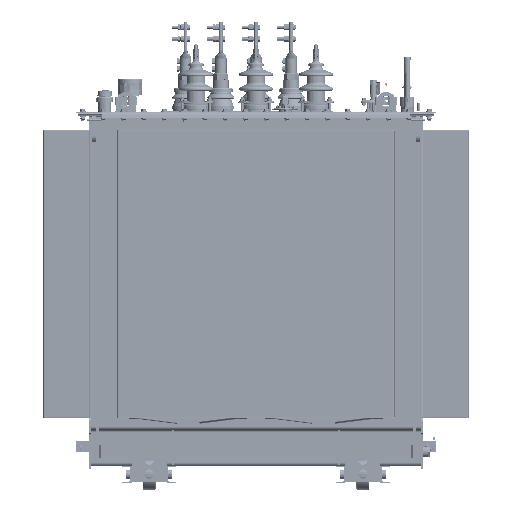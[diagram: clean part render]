
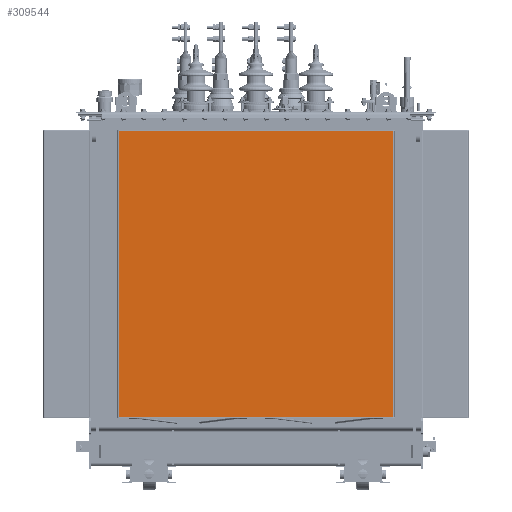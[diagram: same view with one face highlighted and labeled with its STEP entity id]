
A CAD part, front view. The second image highlights one B-rep face of the part: STEP entity #309544.
In plain terms, the highlighted planar face has unit normal (0, -1, 0).
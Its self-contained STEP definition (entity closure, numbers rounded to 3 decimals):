
#23170=PLANE('',#337541);
#40666=FACE_OUTER_BOUND('',#60003,.T.);
#60003=EDGE_LOOP('',(#271337,#271338,#271339,#271340));
#81624=LINE('',#635050,#103266);
#81625=LINE('',#635053,#103267);
#81626=LINE('',#635055,#103268);
#81627=LINE('',#635056,#103269);
#103266=VECTOR('',#414766,10.);
#103267=VECTOR('',#414769,10.);
#103268=VECTOR('',#414770,10.);
#103269=VECTOR('',#414771,10.);
#143123=VERTEX_POINT('',#635044);
#143125=VERTEX_POINT('',#635048);
#143126=VERTEX_POINT('',#635052);
#143127=VERTEX_POINT('',#635054);
#185874=EDGE_CURVE('',#143123,#143125,#81624,.T.);
#185875=EDGE_CURVE('',#143123,#143126,#81625,.T.);
#185876=EDGE_CURVE('',#143127,#143125,#81626,.T.);
#185877=EDGE_CURVE('',#143126,#143127,#81627,.T.);
#271337=ORIENTED_EDGE('',*,*,#185875,.F.);
#271338=ORIENTED_EDGE('',*,*,#185874,.T.);
#271339=ORIENTED_EDGE('',*,*,#185876,.F.);
#271340=ORIENTED_EDGE('',*,*,#185877,.F.);
#309544=ADVANCED_FACE('',(#40666),#23170,.T.);
#337541=AXIS2_PLACEMENT_3D('',#635051,#414767,#414768);
#414766=DIRECTION('',(0.,0.,1.));
#414767=DIRECTION('center_axis',(0.,-1.,0.));
#414768=DIRECTION('ref_axis',(1.,0.,0.));
#414769=DIRECTION('',(-1.,0.,0.));
#414770=DIRECTION('',(1.,0.,0.));
#414771=DIRECTION('',(0.,0.,1.));
#635044=CARTESIAN_POINT('',(526.6,-544.5,185.));
#635048=CARTESIAN_POINT('',(526.6,-544.5,1285.));
#635050=CARTESIAN_POINT('',(526.6,-544.5,185.));
#635051=CARTESIAN_POINT('Origin',(-526.6,-544.5,185.));
#635052=CARTESIAN_POINT('',(-526.6,-544.5,185.));
#635053=CARTESIAN_POINT('',(526.6,-544.5,185.));
#635054=CARTESIAN_POINT('',(-526.6,-544.5,1285.));
#635055=CARTESIAN_POINT('',(526.6,-544.5,1285.));
#635056=CARTESIAN_POINT('',(-526.6,-544.5,185.));
